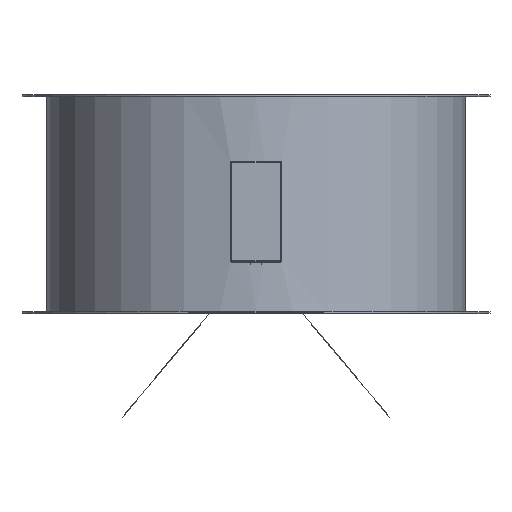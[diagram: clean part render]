
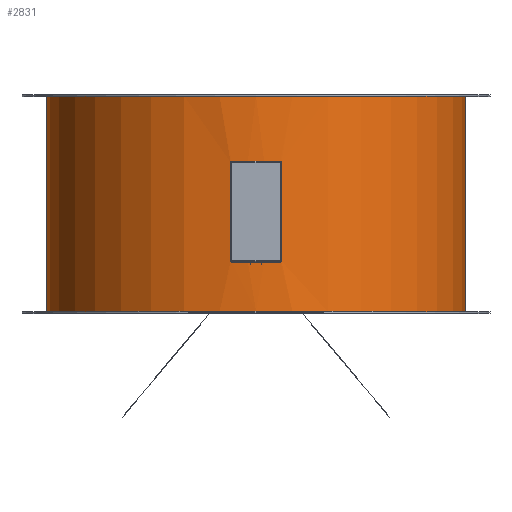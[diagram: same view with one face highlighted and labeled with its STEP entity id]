
A CAD part, top view. The second image highlights one B-rep face of the part: STEP entity #2831.
In plain terms, the highlighted cylindrical face has radius 403 mm (diameter 806 mm), a full revolution.
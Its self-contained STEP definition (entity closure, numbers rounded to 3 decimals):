
#19=FACE_BOUND('',#1010,.T.);
#193=B_SPLINE_CURVE_WITH_KNOTS('',3,(#3970,#3971,#3972,#3973,#3974,#3975,
#3976,#3977,#3978,#3979),.UNSPECIFIED.,.F.,.F.,(4,2,2,2,4),(0.,0.075,
0.151,0.227,0.302),.UNSPECIFIED.);
#194=B_SPLINE_CURVE_WITH_KNOTS('',3,(#4008,#4009,#4010,#4011,#4012,#4013,
#4014,#4015,#4016,#4017),.UNSPECIFIED.,.F.,.F.,(4,2,2,2,4),(-0.302,
-0.227,-0.151,-0.075,0.),
 .UNSPECIFIED.);
#195=B_SPLINE_CURVE_WITH_KNOTS('',3,(#4023,#4024,#4025,#4026,#4027,#4028,
#4029,#4030,#4031,#4032),.UNSPECIFIED.,.F.,.F.,(4,2,2,2,4),(0.605,
0.68,0.756,0.831,0.907),
 .UNSPECIFIED.);
#196=B_SPLINE_CURVE_WITH_KNOTS('',3,(#4038,#4039,#4040,#4041,#4042,#4043,
#4044,#4045,#4046,#4047),.UNSPECIFIED.,.F.,.F.,(4,2,2,2,4),(0.302,
0.378,0.454,0.529,0.605),
 .UNSPECIFIED.);
#223=LINE('',#4051,#454);
#224=LINE('',#4056,#455);
#435=LINE('',#4839,#666);
#454=VECTOR('',#3212,10.);
#455=VECTOR('',#3221,10.);
#666=VECTOR('',#3924,400.);
#729=CYLINDRICAL_SURFACE('',#3131,403.);
#865=FACE_OUTER_BOUND('',#1009,.T.);
#1009=EDGE_LOOP('',(#2546,#2547,#2548,#2549));
#1010=EDGE_LOOP('',(#2550,#2551,#2552,#2553,#2554,#2555,#2556,#2557));
#1129=CIRCLE('',#2884,403.);
#1130=CIRCLE('',#2888,403.);
#1257=CIRCLE('',#3132,403.);
#1258=CIRCLE('',#3133,403.);
#1269=VERTEX_POINT('',#3968);
#1270=VERTEX_POINT('',#3969);
#1277=VERTEX_POINT('',#4006);
#1278=VERTEX_POINT('',#4007);
#1279=VERTEX_POINT('',#4021);
#1280=VERTEX_POINT('',#4022);
#1281=VERTEX_POINT('',#4036);
#1282=VERTEX_POINT('',#4037);
#1515=VERTEX_POINT('',#4836);
#1516=VERTEX_POINT('',#4838);
#1529=EDGE_CURVE('',#1269,#1270,#193,.F.);
#1544=EDGE_CURVE('',#1277,#1278,#194,.F.);
#1547=EDGE_CURVE('',#1279,#1280,#195,.F.);
#1550=EDGE_CURVE('',#1281,#1282,#196,.F.);
#1553=EDGE_CURVE('',#1277,#1270,#223,.T.);
#1554=EDGE_CURVE('',#1269,#1282,#1129,.T.);
#1555=EDGE_CURVE('',#1281,#1280,#224,.T.);
#1556=EDGE_CURVE('',#1279,#1278,#1130,.T.);
#1903=EDGE_CURVE('',#1515,#1515,#1257,.T.);
#1904=EDGE_CURVE('',#1515,#1516,#435,.T.);
#1905=EDGE_CURVE('',#1516,#1516,#1258,.F.);
#2546=ORIENTED_EDGE('',*,*,#1903,.T.);
#2547=ORIENTED_EDGE('',*,*,#1904,.T.);
#2548=ORIENTED_EDGE('',*,*,#1905,.T.);
#2549=ORIENTED_EDGE('',*,*,#1904,.F.);
#2550=ORIENTED_EDGE('',*,*,#1555,.T.);
#2551=ORIENTED_EDGE('',*,*,#1547,.F.);
#2552=ORIENTED_EDGE('',*,*,#1556,.T.);
#2553=ORIENTED_EDGE('',*,*,#1544,.F.);
#2554=ORIENTED_EDGE('',*,*,#1553,.T.);
#2555=ORIENTED_EDGE('',*,*,#1529,.F.);
#2556=ORIENTED_EDGE('',*,*,#1554,.T.);
#2557=ORIENTED_EDGE('',*,*,#1550,.F.);
#2831=ADVANCED_FACE('',(#865,#19),#729,.T.);
#2884=AXIS2_PLACEMENT_3D('',#4053,#3215,#3216);
#2888=AXIS2_PLACEMENT_3D('',#4058,#3224,#3225);
#3131=AXIS2_PLACEMENT_3D('',#4835,#3920,#3921);
#3132=AXIS2_PLACEMENT_3D('',#4837,#3922,#3923);
#3133=AXIS2_PLACEMENT_3D('',#4840,#3925,#3926);
#3212=DIRECTION('',(0.,1.,0.));
#3215=DIRECTION('center_axis',(0.,1.,0.));
#3216=DIRECTION('ref_axis',(1.,0.,0.));
#3221=DIRECTION('',(0.,-1.,0.));
#3224=DIRECTION('center_axis',(0.,-1.,0.));
#3225=DIRECTION('ref_axis',(1.,0.,0.));
#3920=DIRECTION('center_axis',(0.,1.,0.));
#3921=DIRECTION('ref_axis',(1.,0.,0.));
#3922=DIRECTION('center_axis',(0.,-1.,0.));
#3923=DIRECTION('ref_axis',(1.,0.,0.));
#3924=DIRECTION('',(0.,-1.,0.));
#3925=DIRECTION('center_axis',(0.,-1.,0.));
#3926=DIRECTION('ref_axis',(1.,0.,0.));
#3968=CARTESIAN_POINT('',(-47.,82.,400.25));
#3969=CARTESIAN_POINT('',(-49.,80.,400.01));
#3970=CARTESIAN_POINT('Ctrl Pts',(-49.,80.,400.01));
#3971=CARTESIAN_POINT('Ctrl Pts',(-49.,80.251,400.01));
#3972=CARTESIAN_POINT('Ctrl Pts',(-48.95,80.519,400.016));
#3973=CARTESIAN_POINT('Ctrl Pts',(-48.746,81.011,400.041));
#3974=CARTESIAN_POINT('Ctrl Pts',(-48.593,81.235,400.06));
#3975=CARTESIAN_POINT('Ctrl Pts',(-48.238,81.591,400.103));
#3976=CARTESIAN_POINT('Ctrl Pts',(-48.013,81.745,400.13));
#3977=CARTESIAN_POINT('Ctrl Pts',(-47.519,81.95,400.189));
#3978=CARTESIAN_POINT('Ctrl Pts',(-47.251,82.,400.22));
#3979=CARTESIAN_POINT('Ctrl Pts',(-47.,82.,400.25));
#4006=CARTESIAN_POINT('',(-49.,-110.,400.01));
#4007=CARTESIAN_POINT('',(-47.,-112.,400.25));
#4008=CARTESIAN_POINT('Ctrl Pts',(-47.,-112.,400.25));
#4009=CARTESIAN_POINT('Ctrl Pts',(-47.251,-112.,400.22));
#4010=CARTESIAN_POINT('Ctrl Pts',(-47.518,-111.95,400.189));
#4011=CARTESIAN_POINT('Ctrl Pts',(-48.011,-111.746,400.13));
#4012=CARTESIAN_POINT('Ctrl Pts',(-48.236,-111.592,400.103));
#4013=CARTESIAN_POINT('Ctrl Pts',(-48.591,-111.237,400.06));
#4014=CARTESIAN_POINT('Ctrl Pts',(-48.745,-111.012,400.041));
#4015=CARTESIAN_POINT('Ctrl Pts',(-48.95,-110.52,400.016));
#4016=CARTESIAN_POINT('Ctrl Pts',(-49.,-110.252,400.01));
#4017=CARTESIAN_POINT('Ctrl Pts',(-49.,-110.,400.01));
#4021=CARTESIAN_POINT('',(47.,-112.,400.25));
#4022=CARTESIAN_POINT('',(49.,-110.,400.01));
#4023=CARTESIAN_POINT('Ctrl Pts',(49.,-110.,400.01));
#4024=CARTESIAN_POINT('Ctrl Pts',(49.,-110.252,400.01));
#4025=CARTESIAN_POINT('Ctrl Pts',(48.95,-110.52,400.016));
#4026=CARTESIAN_POINT('Ctrl Pts',(48.745,-111.012,400.041));
#4027=CARTESIAN_POINT('Ctrl Pts',(48.591,-111.237,400.06));
#4028=CARTESIAN_POINT('Ctrl Pts',(48.236,-111.592,400.103));
#4029=CARTESIAN_POINT('Ctrl Pts',(48.011,-111.746,400.13));
#4030=CARTESIAN_POINT('Ctrl Pts',(47.518,-111.95,400.189));
#4031=CARTESIAN_POINT('Ctrl Pts',(47.251,-112.,400.22));
#4032=CARTESIAN_POINT('Ctrl Pts',(47.,-112.,400.25));
#4036=CARTESIAN_POINT('',(49.,80.,400.01));
#4037=CARTESIAN_POINT('',(47.,82.,400.25));
#4038=CARTESIAN_POINT('Ctrl Pts',(47.,82.,400.25));
#4039=CARTESIAN_POINT('Ctrl Pts',(47.251,82.,400.22));
#4040=CARTESIAN_POINT('Ctrl Pts',(47.519,81.95,400.189));
#4041=CARTESIAN_POINT('Ctrl Pts',(48.013,81.745,400.13));
#4042=CARTESIAN_POINT('Ctrl Pts',(48.238,81.591,400.103));
#4043=CARTESIAN_POINT('Ctrl Pts',(48.593,81.235,400.06));
#4044=CARTESIAN_POINT('Ctrl Pts',(48.746,81.011,400.041));
#4045=CARTESIAN_POINT('Ctrl Pts',(48.95,80.519,400.016));
#4046=CARTESIAN_POINT('Ctrl Pts',(49.,80.251,400.01));
#4047=CARTESIAN_POINT('Ctrl Pts',(49.,80.,400.01));
#4051=CARTESIAN_POINT('',(-49.,0.,400.01));
#4053=CARTESIAN_POINT('Origin',(0.,82.,0.));
#4056=CARTESIAN_POINT('',(49.,0.,400.01));
#4058=CARTESIAN_POINT('Origin',(0.,-112.,0.));
#4835=CARTESIAN_POINT('Origin',(0.,0.,0.));
#4836=CARTESIAN_POINT('',(-403.,207.,0.));
#4837=CARTESIAN_POINT('Origin',(0.,207.,0.));
#4838=CARTESIAN_POINT('',(-403.,-207.,0.));
#4839=CARTESIAN_POINT('',(-403.,0.,0.));
#4840=CARTESIAN_POINT('Origin',(0.,-207.,0.));
